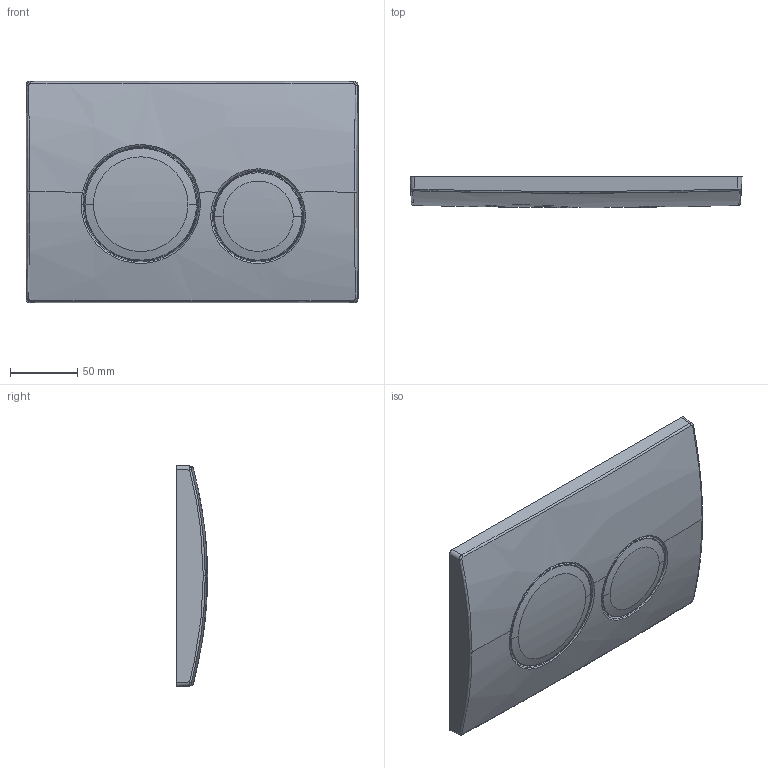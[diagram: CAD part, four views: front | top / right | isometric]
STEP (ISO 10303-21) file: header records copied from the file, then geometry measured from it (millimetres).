
FILE_DESCRIPTION(/* description */ (''),/* implementation_level */ '2;1');
FILE_NAME(/* name */ 'C:\Planerdaten\Export PLA\115.127.11.1\stp\115127.stp',/* time_stamp */ '2021-10-08T09:27:12+02:00',/* author */ ('JANAN'),/* organization */ (''),/* preprocessor_version */ 'ST-DEVELOPER v16.13',/* originating_system */ 'Autodesk Inventor 2018',/* authorisation */ '');
FILE_SCHEMA (('AUTOMOTIVE_DESIGN { 1 0 10303 214 3 1 1 }'));
Length unit declared in the file: millimetre
Products named in the file (1): tmpDDE1.tmp
Bounding box: 246 x 23 x 164 mm (x, y, z)
Volume: 653160 mm3; surface area: 105636.8 mm2
Topology: 3 solids, 3 shells, 49 faces, 155 edges, 110 vertices
Faces by surface type: bspline 32, plane 7, cone 4, cylinder 4, torus 2
Entity records: 5366 total; most frequent: CARTESIAN_POINT 4146, ORIENTED_EDGE 294, EDGE_CURVE 147, DIRECTION 136, VERTEX_POINT 106, B_SPLINE_CURVE_WITH_KNOTS 81, EDGE_LOOP 55, STYLED_ITEM 52
